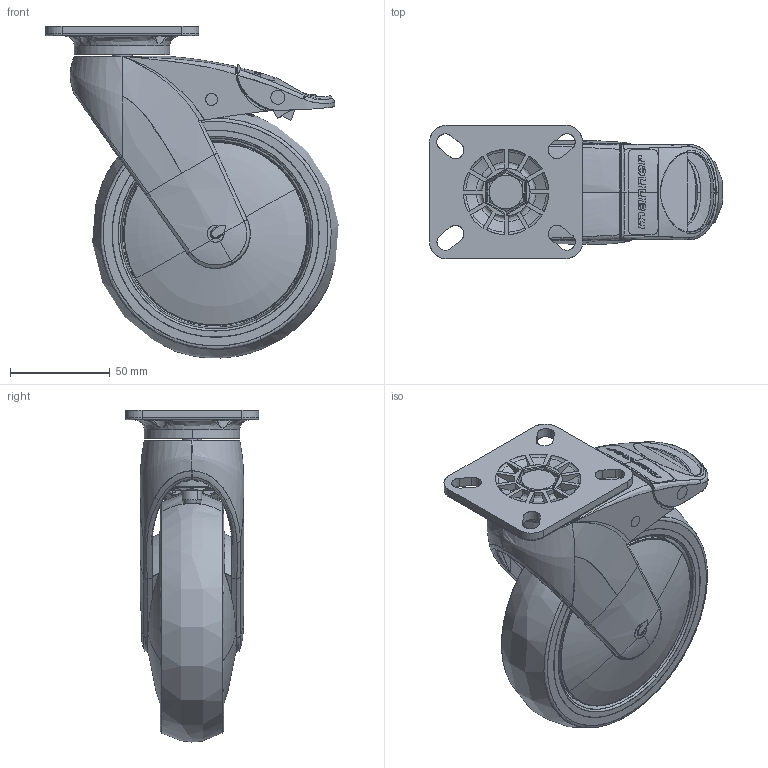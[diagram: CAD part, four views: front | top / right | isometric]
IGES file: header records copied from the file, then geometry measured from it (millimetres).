
Start section: SolidWorks IGES file using analytic representation for surfaces
Global section: file name: S:\Tyokansio\VL\301711_IGES.IGS; native system: SolidWorks 2011; preprocessor: SolidWorks 2011; author: VilleLa; date: 110622.120256; units: millimetre
Bounding box: 147.33 x 67.07 x 166.82 mm (x, y, z)
Surface area: 122204.7 mm2 (no closed solid volume)
Topology: 0 solids, 0 shells, 670 faces, 11943 edges, 11920 vertices
Faces by surface type: bspline 522, revolution 148
